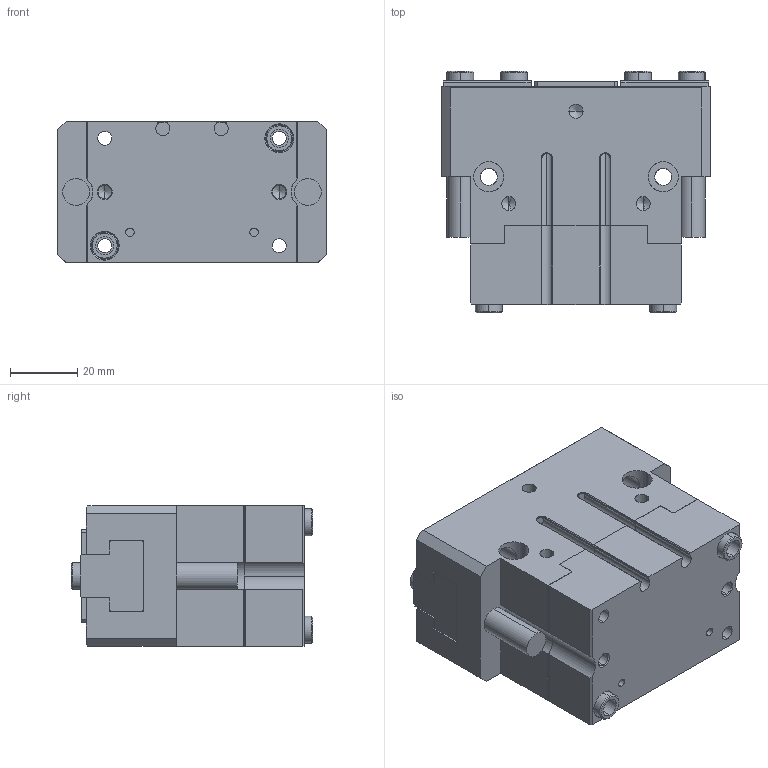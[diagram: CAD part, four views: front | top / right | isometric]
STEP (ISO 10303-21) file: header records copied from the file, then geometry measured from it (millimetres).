
FILE_DESCRIPTION (( 'STEP AP203' ), '1' );
FILE_NAME ('OPP-80-C1-MC&MA-原始檔-組合-W106.04.20.STEP', '2017-04-19T09:14:56', ( 'DanyaoCAD' ), ( '' ), 'SwSTEP 2.0', 'SolidWorks 2016', '' );
FILE_SCHEMA (( 'CONFIG_CONTROL_DESIGN' ));
Length unit declared in the file: millimetre
Products named in the file (6): Boccola; Corpo; Griffa; Fondello; Coperchio; OPP-80-C1-MC&MA-原始檔-組合-W106.04.20
Assembly tree (11 placements, depth 2):
  OPP-80-C1-MC&MA-原始檔-組合-W106.04.20
    Boccola  x6
    Corpo
    Griffa  x2
    Fondello
    Coperchio
Bounding box: 80 x 72 x 42 mm (x, y, z)
Volume: 178901.5 mm3; surface area: 50148.3 mm2
Topology: 11 solids, 11 shells, 1191 faces, 3261 edges, 2130 vertices
Faces by surface type: bspline 640, plane 320, cylinder 149, cone 82
Entity records: 52588 total; most frequent: CARTESIAN_POINT 27886, ORIENTED_EDGE 6070, EDGE_CURVE 3035, DIRECTION 2935, VERTEX_POINT 2012, VECTOR 1445, LINE 1445, B_SPLINE_CURVE_WITH_KNOTS 1315
